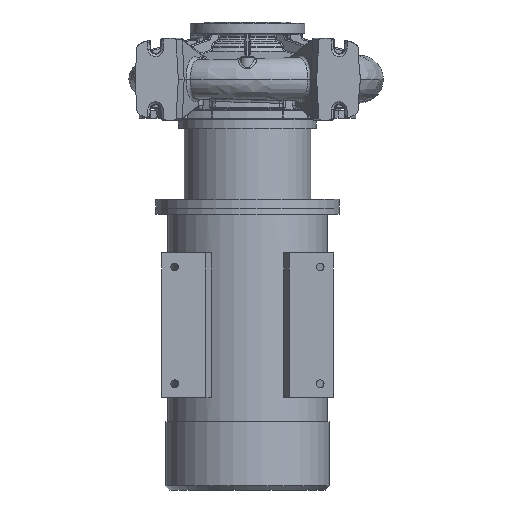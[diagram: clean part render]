
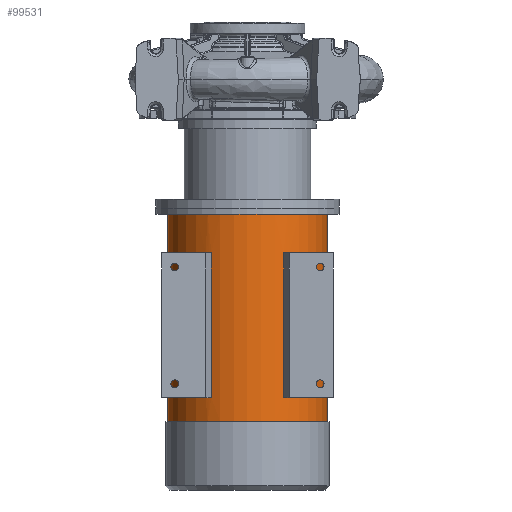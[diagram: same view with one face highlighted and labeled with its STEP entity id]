
A CAD part, front view. The second image highlights one B-rep face of the part: STEP entity #99531.
In plain terms, the highlighted cylindrical face has radius 195 mm (diameter 390 mm), a partial arc.
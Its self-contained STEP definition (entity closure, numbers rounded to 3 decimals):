
#2617 = EDGE_CURVE ( 'NONE', #23603, #29511, #6119, .T. ) ;
#2810 = FACE_BOUND ( 'NONE', #85002, .T. ) ;
#2838 = EDGE_CURVE ( 'NONE', #20177, #17500, #101096, .T. ) ;
#3271 = EDGE_CURVE ( 'NONE', #29511, #62880, #65632, .T. ) ;
#4289 = ORIENTED_EDGE ( 'NONE', *, *, #23663, .T. ) ;
#5334 = CARTESIAN_POINT ( 'NONE',  ( 835., -173.728, -88.564 ) ) ;
#6119 = CIRCLE ( 'NONE', #58623, 195. ) ;
#6401 = ORIENTED_EDGE ( 'NONE', *, *, #68487, .F. ) ;
#8797 = EDGE_LOOP ( 'NONE', ( #6401, #101291, #15137, #85014 ) ) ;
#10337 = DIRECTION ( 'NONE',  ( 0., 0., -1. ) ) ;
#11893 = DIRECTION ( 'NONE',  ( 0., 0., -1. ) ) ;
#11923 = CIRCLE ( 'NONE', #19711, 195. ) ;
#13354 = CARTESIAN_POINT ( 'NONE',  ( 835., -165.882, -102.509 ) ) ;
#14877 = CARTESIAN_POINT ( 'NONE',  ( 835., -165.882, 102.509 ) ) ;
#15137 = ORIENTED_EDGE ( 'NONE', *, *, #39029, .T. ) ;
#17046 = DIRECTION ( 'NONE',  ( 1., 0., 0. ) ) ;
#17500 = VERTEX_POINT ( 'NONE', #117015 ) ;
#17979 = VERTEX_POINT ( 'NONE', #72879 ) ;
#18546 = DIRECTION ( 'NONE',  ( 1., 0., 0. ) ) ;
#18548 = CARTESIAN_POINT ( 'NONE',  ( 668., 0., 195. ) ) ;
#18606 = LINE ( 'NONE', #53548, #25785 ) ;
#19711 = AXIS2_PLACEMENT_3D ( 'NONE', #96040, #23166, #86552 ) ;
#19812 = CARTESIAN_POINT ( 'NONE',  ( 668., 0., 0. ) ) ;
#20177 = VERTEX_POINT ( 'NONE', #30164 ) ;
#22454 = EDGE_CURVE ( 'NONE', #111610, #108800, #81752, .T. ) ;
#23166 = DIRECTION ( 'NONE',  ( -1., 0., 0. ) ) ;
#23603 = VERTEX_POINT ( 'NONE', #49672 ) ;
#23663 = EDGE_CURVE ( 'NONE', #28287, #20177, #81630, .T. ) ;
#24523 = CARTESIAN_POINT ( 'NONE',  ( 254.5, -173.728, -88.564 ) ) ;
#24788 = DIRECTION ( 'NONE',  ( 1., 0., 0. ) ) ;
#25553 = ORIENTED_EDGE ( 'NONE', *, *, #89419, .F. ) ;
#25785 = VECTOR ( 'NONE', #17046, 1000. ) ;
#26879 = VECTOR ( 'NONE', #107615, 1000. ) ;
#27724 = VECTOR ( 'NONE', #80767, 1000. ) ;
#28287 = VERTEX_POINT ( 'NONE', #112056 ) ;
#29511 = VERTEX_POINT ( 'NONE', #77461 ) ;
#30164 = CARTESIAN_POINT ( 'NONE',  ( 254.5, -173.728, 88.564 ) ) ;
#31358 = LINE ( 'NONE', #13354, #112240 ) ;
#32345 = EDGE_CURVE ( 'NONE', #79979, #23603, #31358, .T. ) ;
#32359 = CARTESIAN_POINT ( 'NONE',  ( 254.5, 0., 0. ) ) ;
#33672 = ORIENTED_EDGE ( 'NONE', *, *, #80503, .T. ) ;
#35375 = FACE_OUTER_BOUND ( 'NONE', #8797, .T. ) ;
#36799 = DIRECTION ( 'NONE',  ( 0., 0., -1. ) ) ;
#39029 = EDGE_CURVE ( 'NONE', #43224, #108800, #117597, .T. ) ;
#40612 = ORIENTED_EDGE ( 'NONE', *, *, #32345, .F. ) ;
#41960 = CIRCLE ( 'NONE', #81525, 195. ) ;
#42950 = AXIS2_PLACEMENT_3D ( 'NONE', #100636, #111332, #10337 ) ;
#43224 = VERTEX_POINT ( 'NONE', #66825 ) ;
#43398 = EDGE_CURVE ( 'NONE', #17500, #64684, #71868, .T. ) ;
#43407 = CARTESIAN_POINT ( 'NONE',  ( 254.5, 0., 0. ) ) ;
#48633 = DIRECTION ( 'NONE',  ( -1., 0., 0. ) ) ;
#49672 = CARTESIAN_POINT ( 'NONE',  ( 609.5, -165.882, -102.509 ) ) ;
#51753 = DIRECTION ( 'NONE',  ( -1., 0., 0. ) ) ;
#53095 = CIRCLE ( 'NONE', #70767, 195. ) ;
#53548 = CARTESIAN_POINT ( 'NONE',  ( 835., 0., 195. ) ) ;
#58623 = AXIS2_PLACEMENT_3D ( 'NONE', #103306, #48633, #112057 ) ;
#62015 = DIRECTION ( 'NONE',  ( 0., 0., -1. ) ) ;
#62880 = VERTEX_POINT ( 'NONE', #24523 ) ;
#63208 = CARTESIAN_POINT ( 'NONE',  ( 835., 0., -195. ) ) ;
#64684 = VERTEX_POINT ( 'NONE', #86722 ) ;
#65632 = LINE ( 'NONE', #5334, #77006 ) ;
#65750 = DIRECTION ( 'NONE',  ( 1., 0., 0. ) ) ;
#66825 = CARTESIAN_POINT ( 'NONE',  ( 160., 0., -195. ) ) ;
#68487 = EDGE_CURVE ( 'NONE', #17979, #111610, #18606, .T. ) ;
#68681 = DIRECTION ( 'NONE',  ( -1., 0., 0. ) ) ;
#69369 = CYLINDRICAL_SURFACE ( 'NONE', #42950, 195. ) ;
#70767 = AXIS2_PLACEMENT_3D ( 'NONE', #72450, #18546, #36799 ) ;
#70876 = CARTESIAN_POINT ( 'NONE',  ( 835., -173.728, 88.564 ) ) ;
#71868 = LINE ( 'NONE', #14877, #88894 ) ;
#72291 = ORIENTED_EDGE ( 'NONE', *, *, #43398, .T. ) ;
#72450 = CARTESIAN_POINT ( 'NONE',  ( 160., 0., 0. ) ) ;
#72879 = CARTESIAN_POINT ( 'NONE',  ( 160., 0., 195. ) ) ;
#77006 = VECTOR ( 'NONE', #68681, 1000. ) ;
#77461 = CARTESIAN_POINT ( 'NONE',  ( 609.5, -173.728, -88.564 ) ) ;
#79112 = DIRECTION ( 'NONE',  ( -1., 0., 0. ) ) ;
#79979 = VERTEX_POINT ( 'NONE', #117410 ) ;
#80503 = EDGE_CURVE ( 'NONE', #79979, #62880, #41960, .T. ) ;
#80767 = DIRECTION ( 'NONE',  ( -1., 0., 0. ) ) ;
#81525 = AXIS2_PLACEMENT_3D ( 'NONE', #43407, #51753, #62015 ) ;
#81630 = LINE ( 'NONE', #70876, #27724 ) ;
#81752 = CIRCLE ( 'NONE', #103034, 195. ) ;
#82997 = EDGE_LOOP ( 'NONE', ( #111176, #91141, #40612, #33672 ) ) ;
#85002 = EDGE_LOOP ( 'NONE', ( #4289, #114405, #72291, #25553 ) ) ;
#85014 = ORIENTED_EDGE ( 'NONE', *, *, #22454, .F. ) ;
#86552 = DIRECTION ( 'NONE',  ( 0., 0., -1. ) ) ;
#86722 = CARTESIAN_POINT ( 'NONE',  ( 609.5, -165.882, 102.509 ) ) ;
#88894 = VECTOR ( 'NONE', #24788, 1000. ) ;
#89419 = EDGE_CURVE ( 'NONE', #28287, #64684, #11923, .T. ) ;
#90611 = FACE_BOUND ( 'NONE', #82997, .T. ) ;
#91141 = ORIENTED_EDGE ( 'NONE', *, *, #2617, .F. ) ;
#94130 = DIRECTION ( 'NONE',  ( 1., 0., 0. ) ) ;
#96040 = CARTESIAN_POINT ( 'NONE',  ( 609.5, 0., 0. ) ) ;
#96513 = DIRECTION ( 'NONE',  ( 0., 0., -1. ) ) ;
#97295 = AXIS2_PLACEMENT_3D ( 'NONE', #32359, #79112, #96513 ) ;
#99531 = ADVANCED_FACE ( 'NONE', ( #35375, #90611, #2810 ), #69369, .T. ) ;
#100636 = CARTESIAN_POINT ( 'NONE',  ( 835., 0., 0. ) ) ;
#101096 = CIRCLE ( 'NONE', #97295, 195. ) ;
#101291 = ORIENTED_EDGE ( 'NONE', *, *, #108758, .T. ) ;
#101720 = CARTESIAN_POINT ( 'NONE',  ( 668., 0., -195. ) ) ;
#103034 = AXIS2_PLACEMENT_3D ( 'NONE', #19812, #65750, #11893 ) ;
#103306 = CARTESIAN_POINT ( 'NONE',  ( 609.5, 0., 0. ) ) ;
#107615 = DIRECTION ( 'NONE',  ( 1., 0., 0. ) ) ;
#108758 = EDGE_CURVE ( 'NONE', #17979, #43224, #53095, .T. ) ;
#108800 = VERTEX_POINT ( 'NONE', #101720 ) ;
#111176 = ORIENTED_EDGE ( 'NONE', *, *, #3271, .F. ) ;
#111332 = DIRECTION ( 'NONE',  ( 1., 0., 0. ) ) ;
#111610 = VERTEX_POINT ( 'NONE', #18548 ) ;
#112056 = CARTESIAN_POINT ( 'NONE',  ( 609.5, -173.728, 88.564 ) ) ;
#112057 = DIRECTION ( 'NONE',  ( 0., 0., -1. ) ) ;
#112240 = VECTOR ( 'NONE', #94130, 1000. ) ;
#114405 = ORIENTED_EDGE ( 'NONE', *, *, #2838, .T. ) ;
#117015 = CARTESIAN_POINT ( 'NONE',  ( 254.5, -165.882, 102.509 ) ) ;
#117410 = CARTESIAN_POINT ( 'NONE',  ( 254.5, -165.882, -102.509 ) ) ;
#117597 = LINE ( 'NONE', #63208, #26879 ) ;
